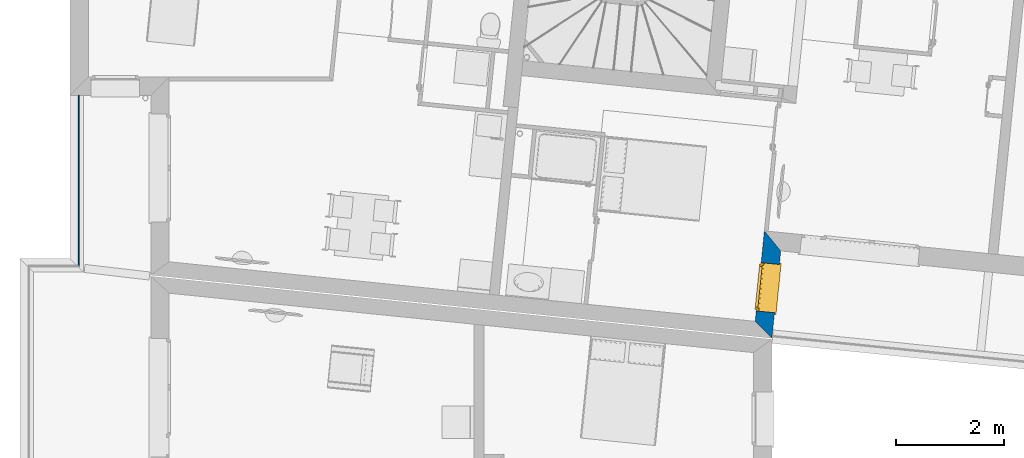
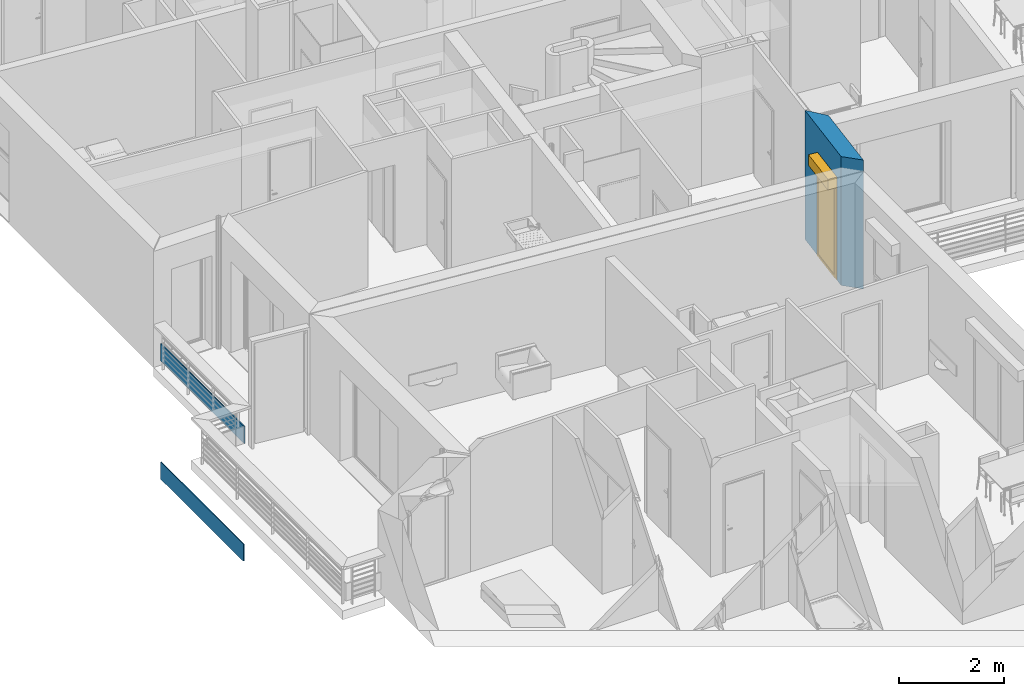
# One storey, part 44 of 164: 3 walls, 1 window, 1 opening.
"""IFC2X3 building model written with IfcOpenShell, lengths in millimetres."""

import ifcopenshell
import ifcopenshell.guid

model = None  # the IFC model being written
_history = None  # IfcOwnerHistory: only IFC2X3 demands one
_inside = {}  # id of a spatial element -> (the spatial element, [elements in it])
_under = {}  # id of a project, library or spatial element -> (it, [spatial elements below it])
_declared = {}  # id of a project -> (the project, [libraries it declares])
_typed = {}  # id of a type object -> (the type object, [elements of that type])
_made_of = {}  # id of a material, layer set ... -> (it, [elements and type objects made of it])


def new_model(schema):
    """Start an empty IFC model of exactly this schema.

    Asked for "IFC4X3", IfcOpenShell would pick the latest addendum, in which some entities
    have other attributes; the version numbers below select the first issue.
    IFC2X3 requires an IfcOwnerHistory on every rooted entity: one is made here for all.
    """
    global model, _history
    if schema == "IFC4X3":
        model = ifcopenshell.file(schema_version=(4, 3, 0, 0))
    else:
        model = ifcopenshell.file(schema=schema)
    _inside.clear()
    _under.clear()
    _declared.clear()
    _typed.clear()
    _made_of.clear()
    _history = None
    if model.schema == "IFC2X3":
        org = make("IfcOrganization", Name="unknown")
        user = make(
            "IfcPersonAndOrganization",
            ThePerson=make("IfcPerson", FamilyName="unknown"),
            TheOrganization=org,
        )
        app = make(
            "IfcApplication",
            ApplicationDeveloper=org,
            Version="unknown",
            ApplicationFullName="unknown",
            ApplicationIdentifier="unknown",
        )
        _history = make(
            "IfcOwnerHistory",
            OwningUser=user,
            OwningApplication=app,
            ChangeAction="ADDED",
            CreationDate=0,
        )
    return model


def make(cls, **values):
    """One entity of the class cls with the attributes given. An attribute that is None is left unset."""
    return model.create_entity(
        cls, **{name: value for name, value in values.items() if value is not None}
    )


def entity(cls, *values):
    """Any entity or typed value of the class cls, its attributes in the order of the schema. None: left unset."""
    e = model.create_entity(cls)
    for i, value in enumerate(values):
        if value is not None:
            e[i] = value
    return e


def rooted(cls, **values):
    """An entity with a GlobalId (a new one), such as an element, a storey or a relation."""
    return make(cls, GlobalId=ifcopenshell.guid.new(), OwnerHistory=_history, **values)


def si_unit(unit_type, name, prefix=None):
    """IfcSIUnit, for example si_unit("LENGTHUNIT", "METRE", prefix="MILLI")."""
    return make("IfcSIUnit", UnitType=unit_type, Prefix=prefix, Name=name)


def converted_unit(unit_type, name, factor, base, dimensions=None, offset=None):
    """IfcConversionBasedUnit, such as the inch: factor (a typed value) times the base unit."""
    return make(
        "IfcConversionBasedUnit"
        if offset is None
        else "IfcConversionBasedUnitWithOffset",
        ConversionOffset=offset,
        Dimensions=None
        if dimensions is None
        else entity("IfcDimensionalExponents", *dimensions),
        UnitType=unit_type,
        Name=name,
        ConversionFactor=make(
            "IfcMeasureWithUnit", ValueComponent=factor, UnitComponent=base
        ),
    )


def derived_unit(unit_type, elements):
    """IfcDerivedUnit: a product of units, each with its exponent."""
    return make(
        "IfcDerivedUnit",
        Elements=[
            make("IfcDerivedUnitElement", Unit=unit, Exponent=power)
            for unit, power in elements
        ],
        UnitType=unit_type,
    )


def money_unit(currency):
    """IfcMonetaryUnit."""
    return make("IfcMonetaryUnit", Currency=currency)


def assignment(units):
    """IfcUnitAssignment: the units of a project."""
    return None if units is None else make("IfcUnitAssignment", Units=units)


def point(xyz):
    """IfcCartesianPoint."""
    return None if xyz is None else make("IfcCartesianPoint", Coordinates=xyz)


def direction(xyz):
    """IfcDirection."""
    return None if xyz is None else make("IfcDirection", DirectionRatios=xyz)


def frame(location, z_axis=None, x_axis=None):
    """IfcAxis2Placement3D, a coordinate frame: its origin and axes. An axis left out is left unset."""
    return make(
        "IfcAxis2Placement3D",
        Location=point(location),
        Axis=direction(z_axis),
        RefDirection=direction(x_axis),
    )


def origin_with_axes():
    """The frame at (0, 0, 0) with the z axis (0, 0, 1) and the x axis (1, 0, 0) written out."""
    return frame((0.0, 0.0, 0.0), z_axis=(0.0, 0.0, 1.0), x_axis=(1.0, 0.0, 0.0))


def place(relative_to, where):
    """IfcLocalPlacement: puts the frame where relative to a parent placement (None: the world)."""
    return make(
        "IfcLocalPlacement", PlacementRelTo=relative_to, RelativePlacement=where
    )


def context(
    kind, dimensions, precision=None, world=None, true_north=None, identifier=None
):
    """IfcGeometricRepresentationContext, for example the 3D "Model" context."""
    return make(
        "IfcGeometricRepresentationContext",
        ContextIdentifier=identifier,
        ContextType=kind,
        CoordinateSpaceDimension=dimensions,
        Precision=precision,
        WorldCoordinateSystem=world,
        TrueNorth=true_north,
    )


def subcontext(parent, identifier, kind, view, scale=None):
    """IfcGeometricRepresentationSubContext, for example "Body" below "Model"."""
    return make(
        "IfcGeometricRepresentationSubContext",
        ContextIdentifier=identifier,
        ContextType=kind,
        ParentContext=parent,
        TargetScale=scale,
        TargetView=view,
    )


def project(units=None, contexts=None):
    """IfcProject with its units and contexts."""
    return rooted(
        "IfcProject",
        Name="project",
        RepresentationContexts=contexts,
        UnitsInContext=assignment(units),
    )


def spatial(cls, under=None, at=None, **own):
    """A site, building, storey or space (cls), placed at a placement, below another one or the project."""
    s = rooted(cls, ObjectPlacement=at, **own)
    if under is not None:
        _under.setdefault(under.id(), (under, []))[1].append(s)
    return s


def polyline(points):
    """IfcPolyline through the points."""
    return make("IfcPolyline", Points=[point(p) for p in points])


def outline(outer, holes=None, kind="AREA"):
    """IfcArbitraryClosedProfileDef: a profile drawn as a closed curve; with holes, ...WithVoids."""
    if holes is None:
        return make("IfcArbitraryClosedProfileDef", ProfileType=kind, OuterCurve=outer)
    return make(
        "IfcArbitraryProfileDefWithVoids",
        ProfileType=kind,
        OuterCurve=outer,
        InnerCurves=holes,
    )


def extrude(swept, where, along, depth):
    """IfcExtrudedAreaSolid: the profile swept, set in the frame where, extruded along a direction by depth."""
    return make(
        "IfcExtrudedAreaSolid",
        SweptArea=swept,
        Position=where,
        ExtrudedDirection=direction(along),
        Depth=depth,
    )


def faces_of(points, faces, orient=None, outer=None):
    """IfcFace entities. A face is a list of loops; a loop is a list of indices into points, from 0.

    orient and outer hold one flag for each loop. By default every Orientation is true, the
    first loop of a face is its IfcFaceOuterBound and the others are IfcFaceBound.
    """
    made = []
    for i, loops in enumerate(faces):
        bounds = []
        for j, loop in enumerate(loops):
            is_outer = j == 0 if outer is None else outer[i][j]
            bounds.append(
                make(
                    "IfcFaceOuterBound" if is_outer else "IfcFaceBound",
                    Bound=make("IfcPolyLoop", Polygon=[points[k] for k in loop]),
                    Orientation=True if orient is None else orient[i][j],
                )
            )
        made.append(make("IfcFace", Bounds=bounds))
    return made


def open_shell(faces, orient=None, outer=None):
    """The faces of one IfcOpenShell. surface_model builds it on its shared points."""
    return ("IfcOpenShell", faces, orient, outer)


def faceted_brep(points, faces, orient=None, outer=None, voids=None):
    """IfcFacetedBrep: a solid bounded by flat faces; with voids (closed shells), ...WithVoids."""
    shared = [point(p) for p in points]
    hull = make("IfcClosedShell", CfsFaces=faces_of(shared, faces, orient, outer))
    if voids is None:
        return make("IfcFacetedBrep", Outer=hull)
    return make(
        "IfcFacetedBrepWithVoids",
        Outer=hull,
        Voids=[
            make(cls, CfsFaces=faces_of(shared, fs, o, b)) for cls, fs, o, b in voids
        ],
    )


def surface_model(cls, points, shells):
    """IfcFaceBasedSurfaceModel or IfcShellBasedSurfaceModel (cls): surfaces that need not close."""
    shared = [point(p) for p in points]
    made = [make(c, CfsFaces=faces_of(shared, fs, o, b)) for c, fs, o, b in shells]
    if cls == "IfcFaceBasedSurfaceModel":
        return make(cls, FbsmFaces=made)
    return make(cls, SbsmBoundary=made)


def shape(context_of_items, identifier, shape_type, items):
    """IfcShapeRepresentation: the items that make up one representation, for example the "Body"."""
    return make(
        "IfcShapeRepresentation",
        ContextOfItems=context_of_items,
        RepresentationIdentifier=identifier,
        RepresentationType=shape_type,
        Items=items,
    )


def source(mapping_origin, context_of_items, identifier, shape_type, items):
    """IfcRepresentationMap: a shape defined once, which mapped items show again and again."""
    return make(
        "IfcRepresentationMap",
        MappingOrigin=mapping_origin,
        MappedRepresentation=shape(context_of_items, identifier, shape_type, items),
    )


def transform(
    local_origin,
    x_axis=None,
    y_axis=None,
    z_axis=None,
    scale=None,
    scale2=None,
    scale3=None,
    uniform=True,
):
    """IfcCartesianTransformationOperator3D, or its non-uniform kind. x_axis, y_axis, z_axis: its Axis1, 2, 3."""
    if uniform:
        return make(
            "IfcCartesianTransformationOperator3D",
            Axis1=direction(x_axis),
            Axis2=direction(y_axis),
            LocalOrigin=point(local_origin),
            Scale=scale,
            Axis3=direction(z_axis),
        )
    return make(
        "IfcCartesianTransformationOperator3DnonUniform",
        Axis1=direction(x_axis),
        Axis2=direction(y_axis),
        LocalOrigin=point(local_origin),
        Scale=scale,
        Axis3=direction(z_axis),
        Scale2=scale2,
        Scale3=scale3,
    )


def mapped(mapping_source, mapping_target):
    """IfcMappedItem: shows the shape of a source again, moved by a transform."""
    return make(
        "IfcMappedItem", MappingSource=mapping_source, MappingTarget=mapping_target
    )


def material(Name=None, Category=None):
    """IfcMaterial."""
    return make("IfcMaterial", Name=Name, Category=Category)


def layer(
    of_material, thickness, ventilated=None, Name=None, Category=None, Priority=None
):
    """IfcMaterialLayer: one layer of a wall or slab, of a material (None: an air gap)."""
    return make(
        "IfcMaterialLayer",
        Material=of_material,
        LayerThickness=thickness,
        IsVentilated=ventilated,
        Name=Name,
        Category=Category,
        Priority=Priority,
    )


def layer_set(layers, Name=None):
    """IfcMaterialLayerSet."""
    return make("IfcMaterialLayerSet", MaterialLayers=layers, LayerSetName=Name)


def layer_usage(for_layer_set, set_direction, sense, offset, extent=None):
    """IfcMaterialLayerSetUsage: how a layer set lies in its element."""
    return make(
        "IfcMaterialLayerSetUsage",
        ForLayerSet=for_layer_set,
        LayerSetDirection=set_direction,
        DirectionSense=sense,
        OffsetFromReferenceLine=offset,
        ReferenceExtent=extent,
    )


def made_of(thing, what):
    """Note that an element or type object is made of a material, layer set ...; save() writes the relation."""
    if what is not None:
        _made_of.setdefault(what.id(), (what, []))[1].append(thing)
    return thing


def type_object(cls, material=None, **own):
    """A type object (cls), such as IfcWallType, which elements share."""
    return made_of(rooted(cls, **own), material)


def element(
    cls,
    number,
    at=None,
    inside=None,
    cuts=None,
    type_object=None,
    material=None,
    context=None,
    identifier="Body",
    shape_type=None,
    held_by="IfcProductDefinitionShape",
    body=None,
    shapes=None,
    **own,
):
    """One element of the class cls, such as IfcWall. Its Tag is "e" and its number.

    at: its placement. inside: the storey or other place that contains it. cuts: it is an
    opening in that element (IfcRelVoidsElement). A single representation is given by context,
    identifier, shape_type and body (its items); several are given by shapes. held_by: the class
    of the entity that holds the representations. save() writes the other relations.
    """
    e = rooted(cls, Tag="e%d" % number, ObjectPlacement=at, **own)
    if body is not None:
        shapes = [shape(context, identifier, shape_type, body)]
    if shapes is not None:
        e.Representation = make(held_by, Representations=shapes)
    if inside is not None:
        _inside.setdefault(inside.id(), (inside, []))[1].append(e)
    if cuts is not None:
        rooted(
            "IfcRelVoidsElement", RelatingBuildingElement=cuts, RelatedOpeningElement=e
        )
    if type_object is not None:
        _typed.setdefault(type_object.id(), (type_object, []))[1].append(e)
    return made_of(e, material)


def fill(opening, filler):
    """IfcRelFillsElement: the door or window that sits in an opening."""
    return rooted(
        "IfcRelFillsElement",
        RelatingOpeningElement=opening,
        RelatedBuildingElement=filler,
    )


def aggregate(whole, parts):
    """IfcRelAggregates: a whole, such as a stair, and the parts it consists of."""
    return rooted("IfcRelAggregates", RelatingObject=whole, RelatedObjects=parts)


def save(model, path):
    """Write the relations noted so far, then the file.

    IfcRelAggregates (storeys below a building ...), IfcRelContainedInSpatialStructure (elements
    in a storey), IfcRelDefinesByType, IfcRelAssociatesMaterial and IfcRelDeclares: one each for
    every whole, place, type object, material and project.
    """
    for whole, parts in _under.values():
        aggregate(whole, parts)
    for where, things in _inside.values():
        rooted(
            "IfcRelContainedInSpatialStructure",
            RelatedElements=things,
            RelatingStructure=where,
        )
    for kind, things in _typed.values():
        rooted("IfcRelDefinesByType", RelatedObjects=things, RelatingType=kind)
    for what, things in _made_of.values():
        rooted("IfcRelAssociatesMaterial", RelatedObjects=things, RelatingMaterial=what)
    for by, libraries in _declared.values():
        rooted("IfcRelDeclares", RelatingContext=by, RelatedDefinitions=libraries)
    model.write(path)


model = new_model("IFC2X3")

# Units and contexts
model_context = context("Model", 3, precision=0.01, world=origin_with_axes(), true_north=direction((0.0, 1.0)))
body_context = subcontext(model_context, "Body", "Model", "MODEL_VIEW")
ifc_project = project(units=[si_unit("LENGTHUNIT", "METRE", prefix="MILLI"), si_unit("AREAUNIT", "SQUARE_METRE"), si_unit("VOLUMEUNIT", "CUBIC_METRE"), converted_unit("PLANEANGLEUNIT", "DEGREE", entity("IfcPlaneAngleMeasure", 0.0174532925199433), si_unit("PLANEANGLEUNIT", "RADIAN"), dimensions=[0, 0, 0, 0, 0, 0, 0]), money_unit("USD"), converted_unit("TIMEUNIT", "Year", entity("IfcTimeMeasure", 31557600.0), si_unit("TIMEUNIT", "SECOND"), dimensions=[0, 0, 1, 0, 0, 0, 0]), si_unit("MASSUNIT", "GRAM", prefix="KILO"), si_unit("THERMODYNAMICTEMPERATUREUNIT", "DEGREE_CELSIUS"), si_unit("LUMINOUSINTENSITYUNIT", "LUMEN"), si_unit("ENERGYUNIT", "JOULE", prefix="MEGA"), derived_unit("THERMALCONDUCTANCEUNIT", [(si_unit("POWERUNIT", "WATT"), 1), (si_unit("LENGTHUNIT", "METRE"), -1), (si_unit("THERMODYNAMICTEMPERATUREUNIT", "KELVIN"), -1)]), derived_unit("SPECIFICHEATCAPACITYUNIT", [(si_unit("ENERGYUNIT", "JOULE"), 1), (si_unit("MASSUNIT", "GRAM", prefix="KILO"), -1), (si_unit("THERMODYNAMICTEMPERATUREUNIT", "KELVIN"), -1)]), derived_unit("MASSDENSITYUNIT", [(si_unit("MASSUNIT", "GRAM", prefix="KILO"), 1), (si_unit("VOLUMEUNIT", "CUBIC_METRE"), -1)])], contexts=[model_context])

# Site, building, storey
site_placement = place(None, origin_with_axes())
site = spatial("IfcSite", under=ifc_project, at=site_placement, Name="Site", CompositionType="ELEMENT")
building_placement = place(site_placement, origin_with_axes())
building = spatial("IfcBuilding", under=site, at=building_placement, Name="Bâtiment", CompositionType="ELEMENT")
storey_placement = place(building_placement, frame((0.0, 0.0, 5750.0), z_axis=(0.0, 0.0, 1.0), x_axis=(1.0, 0.0, 0.0)))
storey = spatial("IfcBuildingStorey", under=building, at=storey_placement, Name="Etage1", CompositionType="ELEMENT", Elevation=5750.0)

# Walls
ifc_material_1 = material(Name="MANQUANT")
ifc_layer_1 = layer(ifc_material_1, 20.0, ventilated="UNKNOWN")
ifc_layer_set_1 = layer_set([ifc_layer_1], Name="MANQUANT 20")
ifc_layer_usage_1 = layer_usage(ifc_layer_set_1, "AXIS2", "NEGATIVE", 20.0)
wall_type_1 = type_object("IfcWallType", Name="MANQUANT 20", PredefinedType="NOTDEFINED")
wall_1_placement = place(storey_placement, frame((2216789.181069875, -617507.5058083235, 99.99999999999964), z_axis=(0.0, 0.0, 1.0), x_axis=(0.0, -1.0, 0.0)))
element("IfcWallStandardCase", 1, at=wall_1_placement, inside=storey, type_object=wall_type_1, material=ifc_layer_usage_1, Name="Mur-186", context=body_context, shape_type="SweptSolid", body=[
    extrude(outline(polyline([(0.0, 0.0), (3155.658011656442, 0.0), (3175.658011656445, 19.99999999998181), (0.0, 19.99999999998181), (0.0, 0.0)])), origin_with_axes(), (0.0, 0.0, 1.0), 400.0),
])
ifc_layer_usage_2 = layer_usage(ifc_layer_set_1, "AXIS2", "NEGATIVE", 20.0)
wall_2_placement = place(storey_placement, frame((2216789.181069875, -617507.5058083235, -2649.999999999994), z_axis=(0.0, 0.0, 1.0), x_axis=(0.0, -1.0, 0.0)))
element("IfcWallStandardCase", 2, at=wall_2_placement, inside=storey, type_object=wall_type_1, material=ifc_layer_usage_2, Name="Mur-186", context=body_context, shape_type="SweptSolid", body=[
    extrude(outline(polyline([(0.0, 0.0), (3155.658011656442, 0.0), (3155.658011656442, 19.99999999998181), (0.0, 19.99999999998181), (0.0, 0.0)])), origin_with_axes(), (0.0, 0.0, 1.0), 400.0),
])

# Wall, opening, window
ifc_material_2 = material(Name="Parpaing 312445824")
ifc_layer_2 = layer(ifc_material_2, 180.0, ventilated="UNKNOWN")
ifc_material_3 = material(Name="Isolant styromousse 301821074")
ifc_layer_3 = layer(ifc_material_3, 160.0, ventilated="UNKNOWN")
ifc_layer_set_2 = layer_set([ifc_layer_2, ifc_layer_3], Name="isol int 18+16 0018356637")
ifc_layer_usage_3 = layer_usage(ifc_layer_set_2, "AXIS2", "POSITIVE", 0.0)
wall_type_2 = type_object("IfcWallType", Name="isol int 18+16 0018356637 340", PredefinedType="NOTDEFINED")
wall_3_placement = place(storey_placement, frame((2229655.498103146, -622012.6323236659, 0.0), z_axis=(0.0, 0.0, 1.0), x_axis=(0.1011032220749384, 0.9948759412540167, 0.0)))
wall_3 = element("IfcWallStandardCase", 3, at=wall_3_placement, inside=storey, type_object=wall_type_2, material=ifc_layer_usage_3, Name="Mur-145", context=body_context, shape_type="SweptSolid", body=[
    extrude(outline(polyline([(0.0, 0.0), (1628.386302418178, 0.0), (1968.386302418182, 340.0000000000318), (280.0000001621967, 339.9999999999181), (0.0, 0.0)])), origin_with_axes(), (0.0, 0.0, 1.0), 3000.0),
])
opening_placement = place(wall_3_placement, frame((924.7774317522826, 1.13686837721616e-10, 0.0), z_axis=(0.0, 0.0, 1.0), x_axis=(1.0, 0.0, 0.0)))
opening = element("IfcOpeningElement", 4, at=opening_placement, cuts=wall_3, Name="Fen-207", context=body_context, shape_type="Brep", body=[
    faceted_brep([(450.0000000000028, 290.0000000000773, 2150.0), (450.0000000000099, 279.9999999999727, 2150.0), (449.9999999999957, -164.791502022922, 2150.0), (449.9999999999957, -164.791502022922, 0.0), (449.9999999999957, 290.0000000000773, 0.0), (450.0000000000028, 504.7915020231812, 2150.0), (450.0000000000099, 529.9999999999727, 2150.0), (450.0000000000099, 529.9999999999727, 2400.0), (450.0000000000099, 279.9999999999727, 2400.0), (-450.0000000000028, 280.0000000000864, 2150.0), (-450.0000000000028, -164.7915020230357, 2150.0), (-450.0000000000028, -164.7915020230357, 0.0), (-449.9999999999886, 289.9999999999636, 0.0), (-449.9999999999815, 504.7915020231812, 0.0), (450.0000000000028, 504.7915020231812, 0.0), (-449.9999999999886, 504.7915020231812, 2150.0), (-450.0000000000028, 530.0000000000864, 2150.0), (-450.0000000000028, 530.0000000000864, 2400.0), (-450.0000000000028, 280.0000000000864, 2400.0), (-449.9999999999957, 289.9999999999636, 2150.0)], [[[0, 1, 2, 3, 4]], [[1, 0, 5, 6, 7, 8]], [[1, 9, 10, 2]], [[10, 11, 3, 2]], [[4, 3, 11, 12, 13, 14]], [[5, 0, 4, 14]], [[5, 15, 16, 6]], [[16, 17, 7, 6]], [[17, 18, 8, 7]], [[9, 1, 8, 18]], [[9, 19, 12, 11, 10]], [[19, 15, 13, 12]], [[15, 5, 14, 13]], [[19, 9, 18, 17, 16, 15]]]),
])
window_style = type_object("IfcWindowStyle", Name="Fenêtre 27", ConstructionType="NOTDEFINED", OperationType="SINGLE_PANEL", ParameterTakesPrecedence=False, Sizeable=False)
shared_shape = source(origin_with_axes(), body_context, "Body", "SurfaceModel", [
    surface_model("IfcShellBasedSurfaceModel", [(-450.0, -51.00000000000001, 40.00000000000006), (450.0, -51.00000000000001, 40.0), (450.0, -51.00000000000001, 50.0), (-450.0, -51.00000000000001, 50.00000000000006), (-480.0, -369.9999999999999, 28.96551724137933), (480.0, -369.9999999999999, 28.96551724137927), (480.0, -339.9999999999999, 30.00324289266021), (450.0, -339.9999999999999, 30.00324289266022), (-450.0, -339.9999999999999, 30.00324289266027), (-480.0, -339.9999999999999, 30.00324289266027), (-480.0, -369.9999999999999, 8.965517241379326), (480.0, -369.9999999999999, 8.965517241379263), (-480.0, -359.9999999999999, 18.96551724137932), (480.0, -359.9999999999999, 18.96551724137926)], [open_shell([[[0, 1, 2, 3]], [[4, 5, 6, 7, 1, 0, 8, 9]], [[10, 11, 5, 4]], [[12, 13, 11, 10]]])]),
    faceted_brep([(450.0, -59.99999999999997, 2400.0), (450.0, 190.0, 2400.0), (447.0, 190.0, 2400.0), (447.0, -59.99999999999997, 2400.0), (450.0, -59.99999999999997, 2150.0), (450.0, 190.0, 2150.0), (447.0, 190.0, 2150.0), (447.0, -59.99999999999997, 2150.0)], [[[0, 1, 2, 3]], [[0, 4, 5, 1]], [[1, 5, 6, 2]], [[3, 2, 6, 7]], [[4, 0, 3, 7]], [[5, 4, 7, 6]]]),
    faceted_brep([(-447.0, -59.99999999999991, 2400.0), (-447.0, 190.0000000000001, 2400.0), (-450.0, 190.0000000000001, 2400.0), (-450.0, -59.99999999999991, 2400.0), (-447.0, -59.99999999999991, 2150.0), (-447.0, 190.0000000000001, 2150.0), (-450.0, 190.0000000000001, 2150.0), (-450.0, -59.99999999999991, 2150.0)], [[[0, 1, 2, 3]], [[0, 4, 5, 1]], [[1, 5, 6, 2]], [[3, 2, 6, 7]], [[4, 0, 3, 7]], [[5, 4, 7, 6]]]),
    faceted_brep([(447.0, -59.99999999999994, 2150.0), (447.0, -59.99999999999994, 2400.0), (-447.0, -59.99999999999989, 2400.0), (-447.0, -59.99999999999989, 2150.0), (447.0, -56.99999999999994, 2150.0), (447.0, -56.99999999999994, 2397.0), (447.0, 187.0000000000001, 2397.0), (447.0, 187.0000000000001, 2153.0), (447.0, -37.99999999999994, 2153.0), (447.0, -37.99999999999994, 2150.0), (447.0, 190.0000000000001, 2150.0), (447.0, 190.0000000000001, 2400.0), (-447.0, 190.0000000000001, 2400.0), (-447.0, 190.0000000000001, 2150.0), (-447.0, -37.99999999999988, 2150.0), (-447.0, -37.99999999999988, 2153.0), (-447.0, 187.0000000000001, 2153.0), (-447.0, 187.0000000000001, 2397.0), (-447.0, -56.99999999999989, 2397.0), (-447.0, -56.99999999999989, 2150.0)], [[[0, 1, 2, 3]], [[0, 4, 5, 6, 7, 8, 9, 10, 11, 1]], [[1, 11, 12, 2]], [[3, 2, 12, 13, 14, 15, 16, 17, 18, 19]], [[4, 0, 3, 19]], [[5, 4, 19, 18]], [[6, 5, 18, 17]], [[7, 6, 17, 16]], [[8, 7, 16, 15]], [[9, 8, 15, 14]], [[10, 9, 14, 13]], [[11, 10, 13, 12]]]),
    faceted_brep([(444.0, -40.374429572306, 2256.419644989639), (444.0, -35.54711042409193, 2238.403844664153), (444.0, -27.6647182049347, 2221.5), (444.0, -16.96675541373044, 2206.22172576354), (444.0, -3.778274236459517, 2193.033244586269), (444.0, 11.50000000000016, 2182.335281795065), (444.0, 28.40384466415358, 2174.452889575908), (444.0, 46.41964498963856, 2169.625570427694), (444.0, 65.00000000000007, 2168.0), (444.0, 83.5803550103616, 2169.625570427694), (444.0, 101.5961553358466, 2174.452889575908), (444.0, 118.5, 2182.335281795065), (444.0, 133.7782742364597, 2193.033244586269), (444.0, 146.9667554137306, 2206.22172576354), (444.0, 157.6647182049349, 2221.5), (444.0, 165.5471104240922, 2238.403844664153), (444.0, 170.3744295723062, 2256.419644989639), (444.0, 172.0, 2275.0), (444.0, 170.3744295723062, 2293.580355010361), (444.0, 165.5471104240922, 2311.596155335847), (444.0, 157.6647182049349, 2328.5), (444.0, 146.9667554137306, 2343.77827423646), (444.0, 133.7782742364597, 2356.96675541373), (444.0, 118.5, 2367.664718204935), (444.0, 101.5961553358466, 2375.547110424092), (444.0, 83.58035501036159, 2380.374429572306), (444.0, 65.00000000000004, 2382.0), (444.0, 46.4196449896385, 2380.374429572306), (444.0, 28.4038446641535, 2375.547110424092), (444.0, 11.50000000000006, 2367.664718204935), (444.0, -3.778274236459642, 2356.96675541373), (444.0, -16.96675541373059, 2343.77827423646), (444.0, -27.66471820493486, 2328.5), (444.0, -35.54711042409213, 2311.596155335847), (444.0, -40.37442957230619, 2293.580355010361), (444.0, -41.99999999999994, 2275.0), (-444.0, -40.37442957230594, 2256.419644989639), (-444.0, -35.54711042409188, 2238.403844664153), (-444.0, -27.66471820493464, 2221.5), (-444.0, -16.96675541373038, 2206.22172576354), (-444.0, -3.778274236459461, 2193.033244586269), (-444.0, 11.50000000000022, 2182.335281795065), (-444.0, 28.40384466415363, 2174.452889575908), (-444.0, 46.41964498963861, 2169.625570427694), (-444.0, 65.00000000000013, 2168.0), (-444.0, 83.58035501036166, 2169.625570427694), (-444.0, 101.5961553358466, 2174.452889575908), (-444.0, 118.5000000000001, 2182.335281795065), (-444.0, 133.7782742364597, 2193.033244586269), (-444.0, 146.9667554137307, 2206.22172576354), (-444.0, 157.6647182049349, 2221.5), (-444.0, 165.5471104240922, 2238.403844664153), (-444.0, 170.3744295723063, 2256.419644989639), (-444.0, 172.0, 2275.0), (-444.0, 170.3744295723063, 2293.580355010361), (-444.0, 165.5471104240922, 2311.596155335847), (-444.0, 157.664718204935, 2328.5), (-444.0, 146.9667554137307, 2343.77827423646), (-444.0, 133.7782742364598, 2356.96675541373), (-444.0, 118.5000000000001, 2367.664718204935), (-444.0, 101.5961553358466, 2375.547110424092), (-444.0, 83.58035501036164, 2380.374429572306), (-444.0, 65.0000000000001, 2382.0), (-444.0, 46.41964498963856, 2380.374429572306), (-444.0, 28.40384466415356, 2375.547110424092), (-444.0, 11.50000000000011, 2367.664718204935), (-444.0, -3.778274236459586, 2356.96675541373), (-444.0, -16.96675541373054, 2343.77827423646), (-444.0, -27.66471820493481, 2328.5), (-444.0, -35.54711042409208, 2311.596155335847), (-444.0, -40.37442957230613, 2293.580355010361), (-444.0, -41.99999999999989, 2275.0)], [[[0, 1, 2, 3, 4, 5, 6, 7, 8, 9, 10, 11, 12, 13, 14, 15, 16, 17, 18, 19, 20, 21, 22, 23, 24, 25, 26, 27, 28, 29, 30, 31, 32, 33, 34, 35]], [[1, 0, 36, 37]], [[2, 1, 37, 38]], [[3, 2, 38, 39]], [[4, 3, 39, 40]], [[5, 4, 40, 41]], [[6, 5, 41, 42]], [[7, 6, 42, 43]], [[8, 7, 43, 44]], [[9, 8, 44, 45]], [[10, 9, 45, 46]], [[11, 10, 46, 47]], [[12, 11, 47, 48]], [[13, 12, 48, 49]], [[14, 13, 49, 50]], [[15, 14, 50, 51]], [[16, 15, 51, 52]], [[17, 16, 52, 53]], [[18, 17, 53, 54]], [[19, 18, 54, 55]], [[20, 19, 55, 56]], [[21, 20, 56, 57]], [[22, 21, 57, 58]], [[23, 22, 58, 59]], [[24, 23, 59, 60]], [[25, 24, 60, 61]], [[26, 25, 61, 62]], [[27, 26, 62, 63]], [[28, 27, 63, 64]], [[29, 28, 64, 65]], [[30, 29, 65, 66]], [[31, 30, 66, 67]], [[32, 31, 67, 68]], [[33, 32, 68, 69]], [[34, 33, 69, 70]], [[35, 34, 70, 71]], [[0, 35, 71, 36]], [[36, 71, 70, 69, 68, 67, 66, 65, 64, 63, 62, 61, 60, 59, 58, 57, 56, 55, 54, 53, 52, 51, 50, 49, 48, 47, 46, 45, 44, 43, 42, 41, 40, 39, 38, 37]]]),
    faceted_brep([(-450.0, -34.99999999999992, 30.0), (-450.0, -59.99999999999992, 30.0), (-450.0, -59.99999999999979, 2150.0), (-450.0, -34.99999999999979, 2150.0), (-425.0, -34.99999999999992, 30.0), (-425.0, -37.99999999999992, 30.0), (-447.0, -37.99999999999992, 30.0), (-447.0, -56.99999999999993, 30.0), (-425.0, -56.99999999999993, 30.0), (-425.0, -59.99999999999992, 30.0), (-425.0, -59.99999999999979, 2150.0), (-425.0, -56.99999999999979, 2150.0), (-447.0, -56.99999999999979, 2150.0), (-447.0, -37.99999999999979, 2150.0), (-425.0, -37.99999999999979, 2150.0), (-425.0, -34.99999999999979, 2150.0)], [[[0, 1, 2, 3]], [[0, 4, 5, 6, 7, 8, 9, 1]], [[1, 9, 10, 2]], [[3, 2, 10, 11, 12, 13, 14, 15]], [[4, 0, 3, 15]], [[5, 4, 15, 14]], [[6, 5, 14, 13]], [[7, 6, 13, 12]], [[8, 7, 12, 11]], [[9, 8, 11, 10]]]),
    faceted_brep([(450.0, -34.99999999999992, 30.0), (450.0, -34.99999999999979, 2150.0), (450.0, -59.99999999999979, 2150.0), (450.0, -59.99999999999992, 30.0), (425.0, -34.99999999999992, 30.0), (425.0, -34.99999999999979, 2150.0), (425.0, -37.99999999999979, 2150.0), (447.0, -37.99999999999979, 2150.0), (447.0, -56.99999999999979, 2150.0), (425.0, -56.99999999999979, 2150.0), (425.0, -59.99999999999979, 2150.0), (425.0, -59.99999999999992, 30.0), (425.0, -56.99999999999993, 30.0), (447.0, -56.99999999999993, 30.0), (447.0, -37.99999999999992, 30.0), (425.0, -37.99999999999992, 30.0)], [[[0, 1, 2, 3]], [[4, 5, 1, 0]], [[1, 5, 6, 7, 8, 9, 10, 2]], [[3, 2, 10, 11]], [[0, 3, 11, 12, 13, 14, 15, 4]], [[15, 6, 5, 4]], [[14, 7, 6, 15]], [[13, 8, 7, 14]], [[12, 9, 8, 13]], [[11, 10, 9, 12]]]),
    faceted_brep([(-447.0, -46.66666666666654, 2275.0), (447.0, -46.6666666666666, 2275.0), (447.0, -46.6666666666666, 2266.666666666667), (-447.0, -46.66666666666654, 2266.666666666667), (-447.0, -51.66666666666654, 2275.0), (447.0, -51.6666666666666, 2275.0), (447.0, -51.6666666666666, 2266.666666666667), (447.0, -49.99999999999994, 2250.0), (447.0, -44.99999999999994, 2250.0), (-447.0, -44.99999999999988, 2250.0), (-447.0, -49.99999999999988, 2250.0), (-447.0, -51.66666666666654, 2266.666666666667)], [[[0, 1, 2, 3]], [[1, 0, 4, 5]], [[1, 5, 6, 7, 8, 2]], [[2, 8, 9, 3]], [[4, 0, 3, 9, 10, 11]], [[6, 5, 4, 11]], [[7, 6, 11, 10]], [[8, 7, 10, 9]]]),
    faceted_brep([(447.0, -44.99999999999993, 2250.0), (447.0, -46.6666666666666, 2233.333333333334), (-447.0, -46.66666666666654, 2233.333333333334), (-447.0, -44.99999999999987, 2250.0), (447.0, -49.99999999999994, 2250.0), (447.0, -51.6666666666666, 2233.333333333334), (447.0, -51.6666666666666, 2216.666666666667), (447.0, -49.99999999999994, 2200.0), (447.0, -44.99999999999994, 2200.0), (447.0, -46.6666666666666, 2216.666666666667), (-447.0, -46.66666666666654, 2216.666666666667), (-447.0, -44.99999999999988, 2200.0), (-447.0, -49.99999999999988, 2200.0), (-447.0, -51.66666666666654, 2216.666666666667), (-447.0, -51.66666666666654, 2233.333333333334), (-447.0, -49.99999999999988, 2250.0)], [[[0, 1, 2, 3]], [[0, 4, 5, 6, 7, 8, 9, 1]], [[1, 9, 10, 2]], [[3, 2, 10, 11, 12, 13, 14, 15]], [[4, 0, 3, 15]], [[5, 4, 15, 14]], [[6, 5, 14, 13]], [[7, 6, 13, 12]], [[8, 7, 12, 11]], [[9, 8, 11, 10]]]),
    faceted_brep([(447.0, -44.99999999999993, 2200.0), (447.0, -46.6666666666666, 2183.333333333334), (-447.0, -46.66666666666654, 2183.333333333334), (-447.0, -44.99999999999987, 2200.0), (447.0, -49.99999999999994, 2200.0), (447.0, -51.6666666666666, 2183.333333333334), (447.0, -51.6666666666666, 2166.666666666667), (447.0, -49.99999999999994, 2150.000000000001), (447.0, -44.99999999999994, 2150.000000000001), (447.0, -46.6666666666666, 2166.666666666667), (-447.0, -46.66666666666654, 2166.666666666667), (-447.0, -44.99999999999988, 2150.000000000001), (-447.0, -49.99999999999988, 2150.000000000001), (-447.0, -51.66666666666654, 2166.666666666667), (-447.0, -51.66666666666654, 2183.333333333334), (-447.0, -49.99999999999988, 2200.0)], [[[0, 1, 2, 3]], [[0, 4, 5, 6, 7, 8, 9, 1]], [[1, 9, 10, 2]], [[3, 2, 10, 11, 12, 13, 14, 15]], [[4, 0, 3, 15]], [[5, 4, 15, 14]], [[6, 5, 14, 13]], [[7, 6, 13, 12]], [[8, 7, 12, 11]], [[9, 8, 11, 10]]]),
    faceted_brep([(425.0000000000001, 0.0, 2100.0), (425.0000000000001, -25.00000000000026, 2100.0), (400.0, -25.00000000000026, 2100.0), (400.0, -50.00000000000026, 2100.0), (450.0, -50.00000000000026, 2100.0), (450.0, 0.0, 2100.0), (425.0000000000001, 0.0, 50.00000000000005), (425.0000000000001, -25.00000000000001, 50.00000000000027), (400.0, -25.00000000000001, 50.00000000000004), (400.0, -50.00000000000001, 50.00000000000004), (450.0, -50.00000000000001, 50.00000000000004), (450.0, 0.0, 50.00000000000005)], [[[0, 1, 2, 3, 4, 5]], [[1, 0, 6, 7]], [[8, 2, 1, 7]], [[2, 8, 9, 3]], [[4, 3, 9, 10]], [[5, 4, 10, 11]], [[6, 0, 5, 11]], [[7, 6, 11, 10, 9, 8]]]),
    faceted_brep([(-400.0, -25.00000000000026, 2100.0), (-425.0000000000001, -25.00000000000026, 2100.0), (-425.0000000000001, 0.0, 2100.0), (-450.0, 0.0, 2100.0), (-450.0, -50.00000000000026, 2100.0), (-400.0, -50.00000000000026, 2100.0), (-400.0, -25.00000000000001, 50.00000000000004), (-425.0000000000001, -25.00000000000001, 50.00000000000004), (-425.0000000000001, 0.0, 50.00000000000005), (-450.0, 0.0, 50.00000000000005), (-450.0, -50.00000000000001, 50.00000000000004), (-400.0, -50.00000000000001, 50.00000000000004)], [[[0, 1, 2, 3, 4, 5]], [[1, 0, 6, 7]], [[8, 2, 1, 7]], [[2, 8, 9, 3]], [[9, 10, 4, 3]], [[10, 11, 5, 4]], [[6, 0, 5, 11]], [[7, 6, 11, 10, 9, 8]]]),
    faceted_brep([(-400.0, -25.00000000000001, 50.00000000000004), (-425.0000000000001, -25.00000000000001, 50.00000000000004), (-425.0000000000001, 0.0, 50.00000000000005), (-450.0, 0.0, 50.00000000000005), (-450.0, -50.00000000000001, 50.00000000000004), (-400.0, -50.00000000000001, 50.00000000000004), (400.0, -25.00000000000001, 50.00000000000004), (425.0000000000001, -25.00000000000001, 50.00000000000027), (425.0000000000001, -25.0, 24.99999999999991), (-425.0000000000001, -25.0, 24.99999999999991), (-425.0000000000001, 0.0, 24.99999999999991), (425.0000000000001, 0.0, 24.99999999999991), (425.0000000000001, 0.0, 50.00000000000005), (450.0, 0.0, 50.00000000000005), (450.0, 0.0, 0.0), (-450.0, 0.0, 0.0), (-450.0, -50.0, 0.0), (450.0, -50.00000000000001, 50.00000000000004), (400.0, -50.00000000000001, 50.00000000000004), (450.0, -50.0, 0.0)], [[[0, 1, 2, 3, 4, 5]], [[1, 0, 6, 7, 8, 9]], [[10, 2, 1, 9]], [[11, 12, 13, 14, 15, 3, 2, 10]], [[15, 16, 4, 3]], [[17, 18, 5, 4, 16, 19]], [[6, 0, 5, 18]], [[7, 6, 18, 17, 13, 12]], [[7, 12, 11, 8]], [[11, 10, 9, 8]], [[13, 17, 19, 14]], [[14, 19, 16, 15]]]),
    faceted_brep([(425.0000000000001, 0.0, 2100.0), (425.0000000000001, 0.0, 2125.0), (-425.0000000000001, 0.0, 2125.0), (-425.0000000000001, 0.0, 2100.0), (-450.0, 0.0, 2100.0), (-450.0, 0.0, 2150.0), (450.0, 0.0, 2150.0), (450.0, 0.0, 2100.0), (425.0000000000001, -25.00000000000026, 2100.0), (425.0000000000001, -25.00000000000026, 2125.0), (-425.0000000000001, -25.00000000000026, 2125.0), (-425.0000000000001, -25.00000000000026, 2100.0), (-400.0, -25.00000000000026, 2100.0), (-400.0, -50.00000000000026, 2100.0), (-450.0, -50.00000000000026, 2100.0), (-450.0, -50.00000000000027, 2150.0), (450.0, -50.00000000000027, 2150.0), (450.0, -50.00000000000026, 2100.0), (400.0, -50.00000000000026, 2100.0), (400.0, -25.00000000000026, 2100.0)], [[[0, 1, 2, 3, 4, 5, 6, 7]], [[1, 0, 8, 9]], [[2, 1, 9, 10]], [[3, 2, 10, 11]], [[11, 12, 13, 14, 4, 3]], [[4, 14, 15, 5]], [[5, 15, 16, 6]], [[6, 16, 17, 7]], [[8, 0, 7, 17, 18, 19]], [[12, 11, 10, 9, 8, 19]], [[12, 19, 18, 13]], [[14, 13, 18, 17, 16, 15]]]),
    faceted_brep([(375.0000000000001, -25.00000000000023, 2075.0), (425.0000000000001, -25.00000000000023, 2075.0), (425.0000000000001, 24.99999999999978, 2075.0), (375.0000000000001, 24.99999999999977, 2075.0), (375.0000000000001, -24.99999999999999, 75.00000000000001), (425.0000000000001, -24.99999999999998, 75.00000000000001), (425.0000000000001, 25.00000000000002, 75.00000000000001), (375.0000000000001, 25.00000000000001, 75.00000000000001)], [[[0, 1, 2, 3]], [[0, 4, 5, 1]], [[1, 5, 6, 2]], [[3, 2, 6, 7]], [[4, 0, 3, 7]], [[5, 4, 7, 6]]]),
    faceted_brep([(-375.0000000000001, -25.00000000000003, 75.00000000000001), (-425.0000000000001, -25.00000000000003, 75.00000000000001), (-425.0000000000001, 24.99999999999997, 75.00000000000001), (-375.0000000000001, 24.99999999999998, 75.00000000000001), (-375.0000000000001, -25.00000000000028, 2075.0), (-425.0000000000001, -25.00000000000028, 2075.0), (-425.0000000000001, 24.99999999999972, 2075.0), (-375.0000000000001, 24.99999999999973, 2075.0)], [[[0, 1, 2, 3]], [[0, 4, 5, 1]], [[1, 5, 6, 2]], [[3, 2, 6, 7]], [[4, 0, 3, 7]], [[5, 4, 7, 6]]]),
    faceted_brep([(-425.0000000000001, -25.00000000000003, 25.0), (-425.0000000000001, -25.00000000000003, 75.00000000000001), (-425.0000000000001, 24.99999999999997, 75.00000000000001), (-425.0000000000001, 24.99999999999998, 25.00000000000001), (425.0000000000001, -24.99999999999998, 25.0), (425.0000000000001, -24.99999999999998, 75.00000000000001), (375.0000000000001, -24.99999999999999, 75.00000000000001), (-375.0000000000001, -25.00000000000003, 75.00000000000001), (-375.0000000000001, 24.99999999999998, 75.00000000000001), (375.0000000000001, 25.00000000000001, 75.00000000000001), (425.0000000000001, 25.00000000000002, 75.00000000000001), (425.0000000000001, 25.00000000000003, 25.00000000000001)], [[[0, 1, 2, 3]], [[0, 4, 5, 6, 7, 1]], [[1, 7, 8, 2]], [[3, 2, 8, 9, 10, 11]], [[4, 0, 3, 11]], [[5, 4, 11, 10]], [[6, 5, 10, 9]], [[7, 6, 9, 8]]]),
    faceted_brep([(425.0000000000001, -25.00000000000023, 2125.0), (425.0000000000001, -25.00000000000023, 2075.0), (425.0000000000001, 24.99999999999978, 2075.0), (425.0000000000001, 24.99999999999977, 2125.0), (-425.0000000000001, -25.00000000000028, 2125.0), (-425.0000000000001, -25.00000000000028, 2075.0), (-375.0000000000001, -25.00000000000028, 2075.0), (375.0000000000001, -25.00000000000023, 2075.0), (375.0000000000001, 24.99999999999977, 2075.0), (-375.0000000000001, 24.99999999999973, 2075.0), (-425.0000000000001, 24.99999999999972, 2075.0), (-425.0000000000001, 24.99999999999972, 2125.0)], [[[0, 1, 2, 3]], [[0, 4, 5, 6, 7, 1]], [[1, 7, 8, 2]], [[3, 2, 8, 9, 10, 11]], [[4, 0, 3, 11]], [[5, 4, 11, 10]], [[6, 5, 10, 9]], [[7, 6, 9, 8]]]),
    surface_model("IfcShellBasedSurfaceModel", [(375.0000000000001, -10.00000000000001, 75.00000000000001), (375.0000000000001, -10.00000000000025, 2075.0), (-375.0000000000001, -10.00000000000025, 2075.0), (-375.0000000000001, -10.00000000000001, 75.00000000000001)], [open_shell([[[0, 1, 2, 3]]])]),
    surface_model("IfcShellBasedSurfaceModel", [(375.0000000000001, 9.999999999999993, 75.00000000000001), (-375.0000000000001, 9.999999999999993, 75.00000000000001), (-375.0000000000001, 9.99999999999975, 2075.0), (375.0000000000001, 9.99999999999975, 2075.0)], [open_shell([[[0, 1, 2, 3]]])]),
])
window_placement = place(opening_placement, frame((-449.9999999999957, 0.0, 0.0), z_axis=(0.0, 0.0, 1.0), x_axis=(1.0, 0.0, 0.0)))
window = element("IfcWindow", 5, at=window_placement, inside=storey, type_object=window_style, Name="Fen-207", OverallHeight=2150.0, OverallWidth=900.0, context=body_context, shape_type="MappedRepresentation", body=[
    mapped(shared_shape, transform((450.0000000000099, 340.0000000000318, 0.0))),
])
fill(opening, window)

save(model, "model.ifc")
